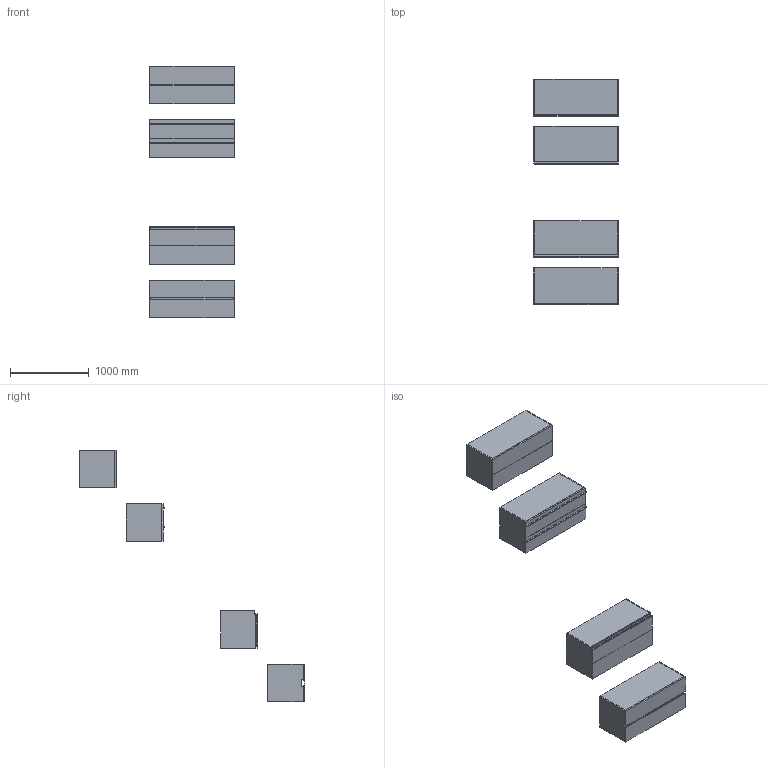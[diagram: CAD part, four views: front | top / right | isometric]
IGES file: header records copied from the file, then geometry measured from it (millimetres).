
Start section: Data from Parasolid IGES Translator 19.0.9, Copyright(c) 2006 Siemens PL M Software. All Rights Reserved.
Global section: file name: noorth-SI-H 48 D 47 W 108_8497.igs; native system: By Siemens PLM Incorporated; preprocessor: XPlus GENERIC/IGES 19.0.9; author: Noname; organization: Noname; date: 20200601.110658; units: metre
Bounding box: 1082.66 x 2869.1 x 3200.01 mm (x, y, z)
Volume: 130382674 mm3; surface area: 20229204.7 mm2
Topology: 33 solids, 33 shells, 318 faces, 700 edges, 428 vertices
Faces by surface type: plane 230, extrusion 36, bspline 32, cylinder 20
